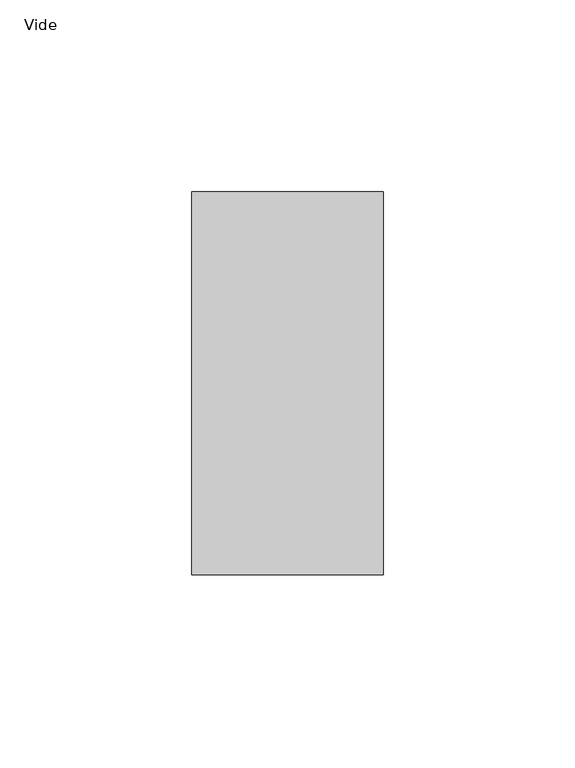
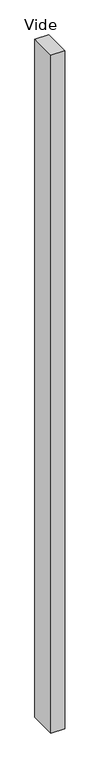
"""IFC4 building model written with IfcOpenShell, lengths in millimetres: plate geometry, Panneau système vide : Vide."""

from ifc_helpers import new_model, si_unit, origin, origin_with_axes, place, context, project, spatial, polyline, outline, extrude, source, transform, mapped, element, save


def vide_f77dcc1f(model_context):
    return source(origin(), model_context, "Body", "SweptSolid", [
        extrude(outline(polyline([(25.0, 50.0), (-25.0, 50.0), (-25.0, 150.0), (25.0, 150.0), (25.0, 50.0)])), origin_with_axes(), (0.0, 0.0, 1.0), 2588.190451),
    ])


if __name__ == "__main__":
    model = new_model("IFC4")
    model_context = context("Model", 3, world=origin())
    ifc_project = project(units=[si_unit("LENGTHUNIT", "METRE", prefix="MILLI")], contexts=[model_context])
    site = spatial("IfcSite", under=ifc_project)
    building = spatial("IfcBuilding", under=site)
    placement = place(None, origin())
    vide_shape = vide_f77dcc1f(model_context)
    element("IfcPlate", 1, ObjectType="Panneau système vide : Vide", at=placement, inside=building, context=model_context, shape_type="MappedRepresentation", body=[
        mapped(vide_shape, transform((0.0, 0.0, 0.0), x_axis=(1.0, 0.0, 0.0), y_axis=(0.0, 1.0, 0.0), z_axis=(0.0, 0.0, 1.0))),
    ])
    save(model, "model.ifc")
